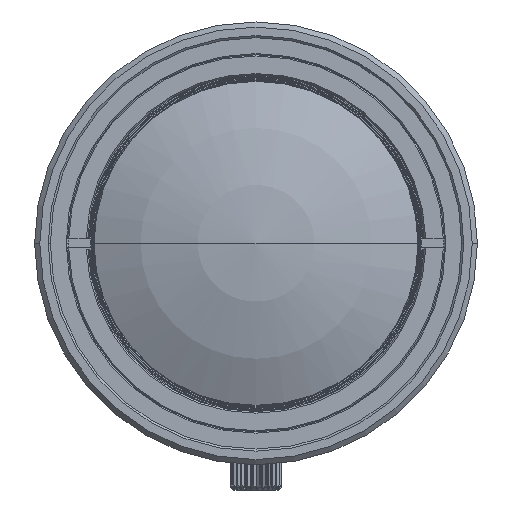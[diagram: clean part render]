
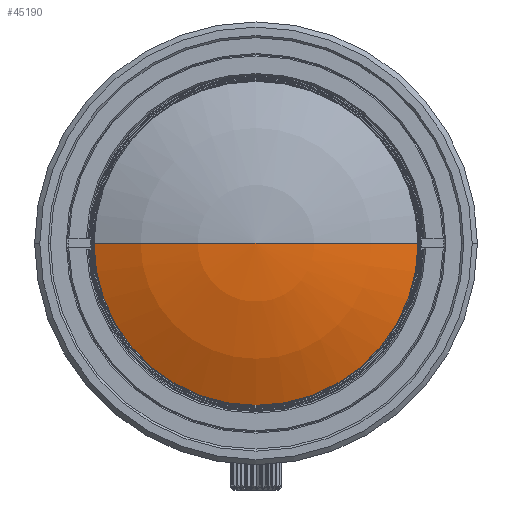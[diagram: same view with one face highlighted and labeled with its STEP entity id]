
A CAD part, left-side view. The second image highlights one B-rep face of the part: STEP entity #45190.
In plain terms, the highlighted spherical face has radius 37.436 mm.
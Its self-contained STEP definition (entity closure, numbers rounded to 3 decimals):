
#14793=CARTESIAN_POINT('',(-9.704,0.,0.));
#14794=DIRECTION('',(0.,0.,-1.));
#14795=DIRECTION('',(-1.,0.,0.));
#14796=AXIS2_PLACEMENT_3D('',#14793,#14794,#14795);
#14803=CARTESIAN_POINT('',(-9.704,0.,0.));
#14804=DIRECTION('',(0.,0.,1.));
#14805=DIRECTION('',(-1.,0.,0.));
#14806=AXIS2_PLACEMENT_3D('',#14803,#14804,#14805);
#14808=CARTESIAN_POINT('',(-43.308,0.,0.));
#14809=DIRECTION('',(1.,0.,0.));
#14810=DIRECTION('',(0.,-1.,0.));
#14811=AXIS2_PLACEMENT_3D('',#14808,#14809,#14810);
#26075=CARTESIAN_POINT('',(-43.308,16.5,
0.));
#26076=VERTEX_POINT('',#26075);
#26077=CARTESIAN_POINT('',(-43.308,-16.5,0.));
#26078=VERTEX_POINT('',#26077);
#26081=CARTESIAN_POINT('',(-47.14,0.,0.));
#26082=VERTEX_POINT('',#26081);
#45180=CARTESIAN_POINT('',(-9.704,0.,0.));
#45181=DIRECTION('',(1.,0.,0.));
#45182=DIRECTION('',(0.,-1.,0.));
#45183=AXIS2_PLACEMENT_3D('',#45180,#45181,#45182);
#45184=SPHERICAL_SURFACE('',#45183,37.436);
#45185=ORIENTED_EDGE('',*,*,#45165,.F.);
#45186=ORIENTED_EDGE('',*,*,#45168,.T.);
#45187=ORIENTED_EDGE('',*,*,#45109,.T.);
#45188=EDGE_LOOP('',(#45185,#45186,#45187));
#45189=FACE_OUTER_BOUND('',#45188,.F.);
#14797=CIRCLE('',#14796,37.436);
#14807=CIRCLE('',#14806,37.436);
#14812=CIRCLE('',#14811,16.5);
#45109=EDGE_CURVE('',#26078,#26076,#14812,.T.);
#45165=EDGE_CURVE('',#26082,#26076,#14797,.T.);
#45168=EDGE_CURVE('',#26082,#26078,#14807,.T.);
#45190=ADVANCED_FACE('',(#45189),#45184,.T.);
